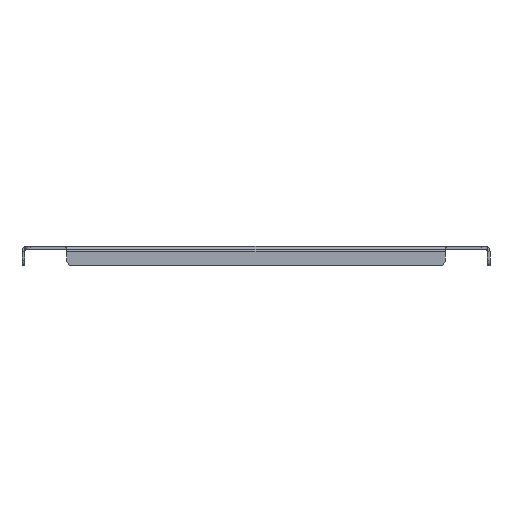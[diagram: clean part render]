
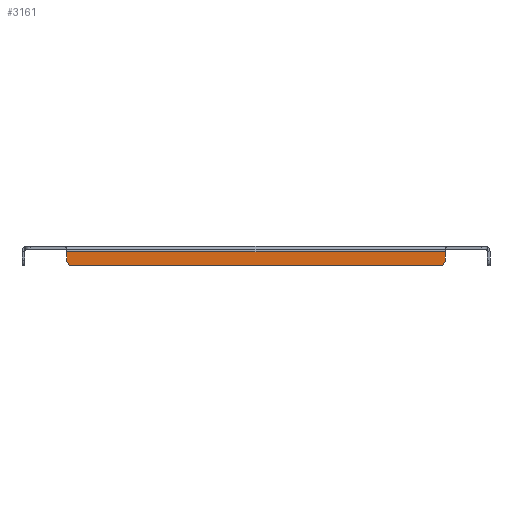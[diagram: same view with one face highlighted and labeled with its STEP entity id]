
A CAD part, front view. The second image highlights one B-rep face of the part: STEP entity #3161.
In plain terms, the highlighted planar face has unit normal (0, -1, 0).
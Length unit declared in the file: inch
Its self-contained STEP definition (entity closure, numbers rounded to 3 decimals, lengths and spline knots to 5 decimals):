
#868=DIRECTION('',(-1.,0.,0.));
#869=VECTOR('',#868,16.9375);
#870=CARTESIAN_POINT('',(8.46875,-28.46875,-0.237));
#871=LINE('',#870,#869);
#937=CARTESIAN_POINT('',(-8.21875,-28.46875,-0.625));
#938=DIRECTION('',(0.,-1.,0.));
#939=DIRECTION('',(-1.,0.,0.));
#940=AXIS2_PLACEMENT_3D('',#937,#938,#939);
#942=DIRECTION('',(0.,0.,-1.));
#943=VECTOR('',#942,0.388);
#944=CARTESIAN_POINT('',(-8.46875,-28.46875,-0.237));
#945=LINE('',#944,#943);
#946=DIRECTION('',(0.,0.,1.));
#947=VECTOR('',#946,0.388);
#948=CARTESIAN_POINT('',(8.46875,-28.46875,-0.625));
#949=LINE('',#948,#947);
#950=CARTESIAN_POINT('',(8.21875,-28.46875,-0.625));
#951=DIRECTION('',(0.,-1.,0.));
#952=DIRECTION('',(0.,0.,-1.));
#953=AXIS2_PLACEMENT_3D('',#950,#951,#952);
#955=DIRECTION('',(1.,0.,0.));
#956=VECTOR('',#955,16.4375);
#957=CARTESIAN_POINT('',(-8.21875,-28.46875,-0.875));
#958=LINE('',#957,#956);
#1185=CARTESIAN_POINT('',(8.46875,-28.46875,-0.237));
#1186=CARTESIAN_POINT('',(-8.46875,-28.46875,-0.237));
#1187=VERTEX_POINT('',#1185);
#1188=VERTEX_POINT('',#1186);
#1489=CARTESIAN_POINT('',(-8.46875,-28.46875,-0.625));
#1490=CARTESIAN_POINT('',(-8.21875,-28.46875,-0.875));
#1491=VERTEX_POINT('',#1489);
#1492=VERTEX_POINT('',#1490);
#1497=CARTESIAN_POINT('',(8.21875,-28.46875,-0.875));
#1498=CARTESIAN_POINT('',(8.46875,-28.46875,-0.625));
#1499=VERTEX_POINT('',#1497);
#1500=VERTEX_POINT('',#1498);
#3145=CARTESIAN_POINT('',(-10.34375,-28.46875,0.));
#3146=DIRECTION('',(0.,-1.,0.));
#3147=DIRECTION('',(-1.,0.,0.));
#3148=AXIS2_PLACEMENT_3D('',#3145,#3146,#3147);
#3149=PLANE('',#3148);
#3150=ORIENTED_EDGE('',*,*,#3135,.F.);
#3151=ORIENTED_EDGE('',*,*,#3125,.F.);
#3152=ORIENTED_EDGE('',*,*,#2935,.F.);
#3154=ORIENTED_EDGE('',*,*,#3153,.F.);
#3156=ORIENTED_EDGE('',*,*,#3155,.F.);
#3158=ORIENTED_EDGE('',*,*,#3157,.F.);
#3159=EDGE_LOOP('',(#3150,#3151,#3152,#3154,#3156,#3158));
#3160=FACE_OUTER_BOUND('',#3159,.F.);
#3161=ADVANCED_FACE('',(#3160),#3149,.T.);
#941=CIRCLE('',#940,0.25);
#954=CIRCLE('',#953,0.25);
#2935=EDGE_CURVE('',#1187,#1188,#871,.T.);
#3125=EDGE_CURVE('',#1188,#1491,#945,.T.);
#3135=EDGE_CURVE('',#1491,#1492,#941,.T.);
#3153=EDGE_CURVE('',#1500,#1187,#949,.T.);
#3155=EDGE_CURVE('',#1499,#1500,#954,.T.);
#3157=EDGE_CURVE('',#1492,#1499,#958,.T.);
